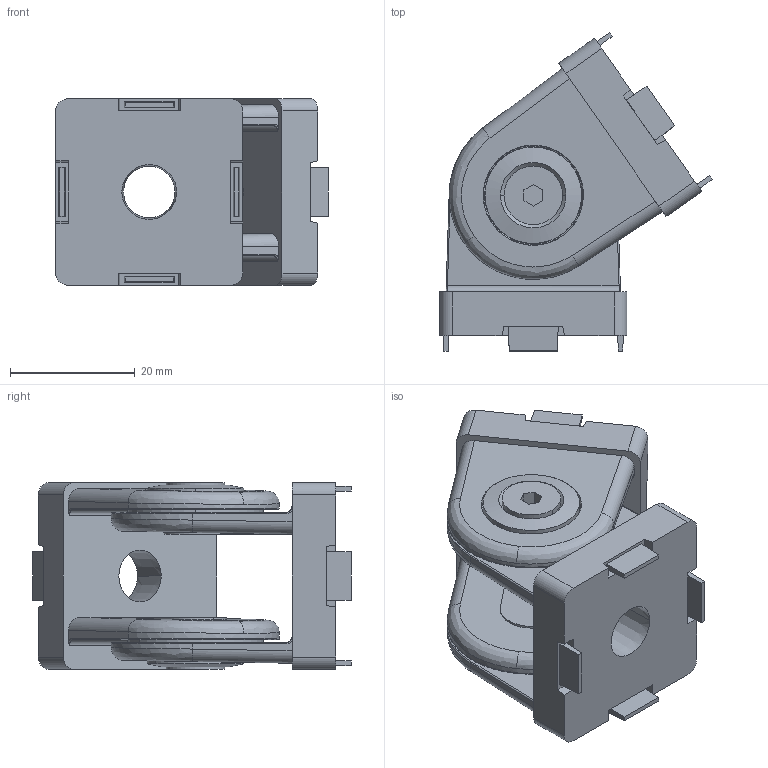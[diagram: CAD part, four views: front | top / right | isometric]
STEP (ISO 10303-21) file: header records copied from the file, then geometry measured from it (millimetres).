
FILE_DESCRIPTION (( 'STEP AP214' ), '1' );
FILE_NAME ('10157_gelenk_8_30x30.STEP', '2016-11-28T15:04:46', ( '' ), ( '' ), 'SwSTEP 2.0', 'SolidWorks 2016', '' );
FILE_SCHEMA (( 'AUTOMOTIVE_DESIGN' ));
Length unit declared in the file: millimetre
Products named in the file (1): 10157_gelenk_8_30x30
Bounding box: 43.72 x 51.1 x 30 mm (x, y, z)
Volume: 21096.8 mm3; surface area: 14423.2 mm2
Topology: 8 solids, 8 shells, 284 faces, 678 edges, 432 vertices
Faces by surface type: plane 138, cylinder 72, bspline 46, cone 28
Entity records: 13145 total; most frequent: CARTESIAN_POINT 3521, ORIENTED_EDGE 1356, DIRECTION 1264, EDGE_CURVE 678, VERTEX_POINT 432, AXIS2_PLACEMENT_3D 431, LINE 402, VECTOR 402
